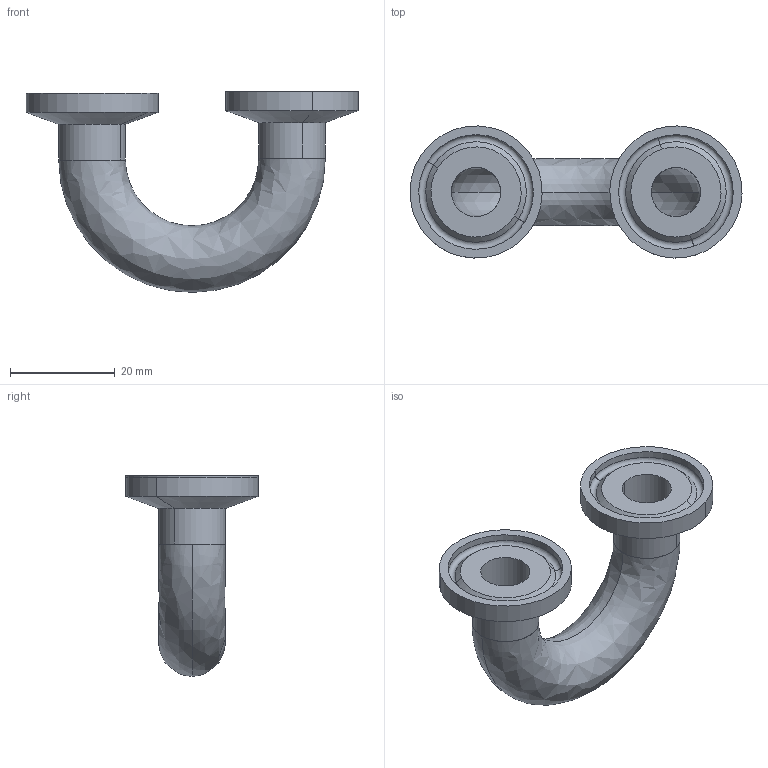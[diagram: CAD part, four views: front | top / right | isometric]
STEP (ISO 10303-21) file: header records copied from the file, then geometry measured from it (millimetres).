
FILE_DESCRIPTION (( 'STEP AP203' ), '1' );
FILE_NAME ('EG2WU.50.STEP', '2018-05-01T14:00:52', ( 'vneprd' ), ( 'Microsoft' ), 'SwSTEP 2.0', 'SolidWorks 2014', '' );
FILE_SCHEMA (( 'CONFIG_CONTROL_DESIGN' ));
Length unit declared in the file: inch
Products named in the file (3): E2WU.50; EG2CS.50; EG2WU.50
Assembly tree (3 placements, depth 2):
  EG2WU.50
    E2WU.50
    EG2CS.50  x2
Bounding box: 63.28 x 25.19 x 38.27 mm (x, y, z)
Volume: 7557.2 mm3; surface area: 8143.3 mm2
Topology: 3 solids, 3 shells, 44 faces, 90 edges, 54 vertices
Faces by surface type: cylinder 16, bspline 8, plane 8, cone 8, torus 4
Entity records: 3877 total; most frequent: CARTESIAN_POINT 2977, DIRECTION 126, ORIENTED_EDGE 112, AXIS2_PLACEMENT_3D 57, EDGE_CURVE 56, VERTEX_POINT 34, CIRCLE 32, EDGE_LOOP 32
